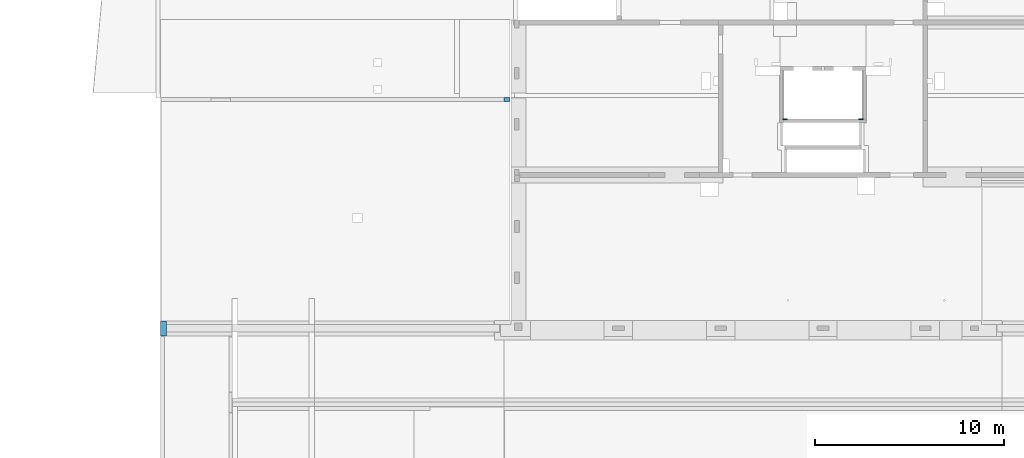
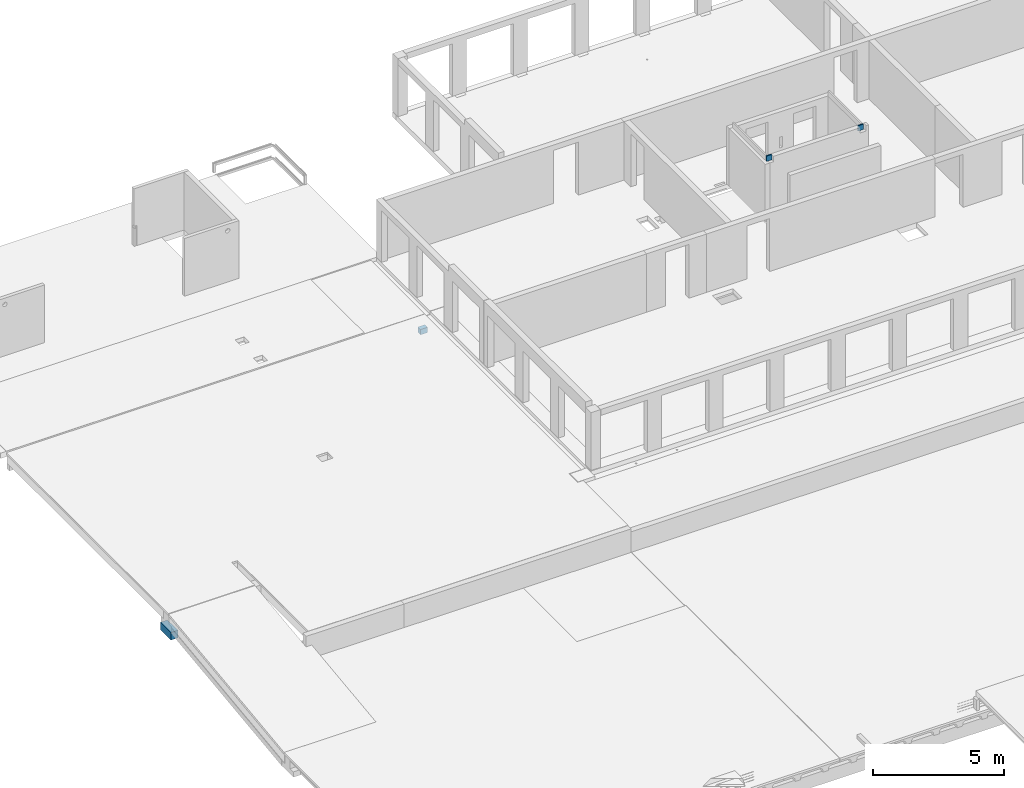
# One storey, part 24 of 36: 4 walls.
"""IFC2X3 building model written with IfcOpenShell, lengths in millimetres."""

from ifc_helpers import new_model, entity, si_unit, converted_unit, derived_unit, direction, frame, frame_2d, origin, origin_2d_with_axis, place, context, subcontext, project, spatial, rectangle, extrude, material, layer, layer_set, layer_usage, type_object, element, save


model = new_model("IFC2X3")

# Units and contexts
model_context = context("Model", 3, precision=0.01, world=origin(), true_north=direction((6.12303176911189e-17, 1.0)))
body_context = subcontext(model_context, "Body", "Model", "MODEL_VIEW")
ifc_project = project(units=[si_unit("LENGTHUNIT", "METRE", prefix="MILLI"), si_unit("AREAUNIT", "SQUARE_METRE"), si_unit("VOLUMEUNIT", "CUBIC_METRE"), converted_unit("PLANEANGLEUNIT", "DEGREE", entity("IfcRatioMeasure", 0.0174532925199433), si_unit("PLANEANGLEUNIT", "RADIAN"), dimensions=[0, 0, 0, 0, 0, 0, 0]), si_unit("MASSUNIT", "GRAM", prefix="KILO"), derived_unit("MASSDENSITYUNIT", [(si_unit("MASSUNIT", "GRAM", prefix="KILO"), 1), (si_unit("LENGTHUNIT", "METRE"), -3)]), si_unit("TIMEUNIT", "SECOND"), si_unit("FREQUENCYUNIT", "HERTZ"), si_unit("THERMODYNAMICTEMPERATUREUNIT", "DEGREE_CELSIUS"), derived_unit("THERMALTRANSMITTANCEUNIT", [(si_unit("MASSUNIT", "GRAM", prefix="KILO"), 1), (si_unit("THERMODYNAMICTEMPERATUREUNIT", "KELVIN"), -1), (si_unit("TIMEUNIT", "SECOND"), -3)]), derived_unit("VOLUMETRICFLOWRATEUNIT", [(si_unit("LENGTHUNIT", "METRE"), 3), (si_unit("TIMEUNIT", "SECOND"), -1)]), si_unit("ELECTRICCURRENTUNIT", "AMPERE"), si_unit("ELECTRICVOLTAGEUNIT", "VOLT"), si_unit("POWERUNIT", "WATT"), si_unit("FORCEUNIT", "NEWTON", prefix="KILO"), si_unit("ILLUMINANCEUNIT", "LUX"), si_unit("LUMINOUSFLUXUNIT", "LUMEN"), si_unit("LUMINOUSINTENSITYUNIT", "CANDELA"), derived_unit("USERDEFINED", [(si_unit("MASSUNIT", "GRAM", prefix="KILO"), -1), (si_unit("LENGTHUNIT", "METRE"), -2), (si_unit("TIMEUNIT", "SECOND"), 3), (si_unit("LUMINOUSFLUXUNIT", "LUMEN"), 1)]), derived_unit("LINEARVELOCITYUNIT", [(si_unit("LENGTHUNIT", "METRE"), 1), (si_unit("TIMEUNIT", "SECOND"), -1)]), si_unit("PRESSUREUNIT", "PASCAL"), derived_unit("USERDEFINED", [(si_unit("LENGTHUNIT", "METRE"), -2), (si_unit("MASSUNIT", "GRAM", prefix="KILO"), 1), (si_unit("TIMEUNIT", "SECOND"), -2)])], contexts=[model_context])

# Site, building, storey
site_placement = place(None, origin())
site = spatial("IfcSite", under=ifc_project, at=site_placement, Name="Default", CompositionType="ELEMENT")
building_placement = place(site_placement, origin())
building = spatial("IfcBuilding", under=site, at=building_placement, Name="niet gebruiken", CompositionType="ELEMENT")
storey_placement = place(building_placement, frame((0.0, 0.0, 12600.0)))
storey = spatial("IfcBuildingStorey", under=building, at=storey_placement, Name="04 vierde verdieping", CompositionType="ELEMENT", Elevation=12600.0)

# Walls
ifc_material_1 = material(Name="NLRS_f2_beton ihwg")
wall_type_1 = type_object("IfcWallType", Name="NLRS_21.21_SF_WPB_oplegnok ihwg beton_gen:200x250", PredefinedType="NOTDEFINED", material=ifc_material_1)
wall_1_placement = place(storey_placement, frame((26370.0, 40861.0, -895.0)))
element("IfcWall", 1, at=wall_1_placement, inside=storey, type_object=wall_type_1, material=ifc_material_1, Name="NLRS_21.21_SF_WPB_oplegnok ihwg beton_gen:200x250", ObjectType="NLRS_21.21_SF_WPB_oplegnok ihwg beton_gen:200x250", context=body_context, shape_type="SweptSolid", body=[
    extrude(rectangle(XDim=305.00000000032, YDim=199.999999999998, at=frame_2d((4.33431068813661e-12, -4.33431068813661e-12), x_axis=(1.0, 0.0))), frame((152.50000000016, 100.0, 0.0)), (0.0, 0.0, 1.0), 250.000000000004),
])
ifc_material_2 = material(Name="NLRS_f2_beton prefab")
wall_type_2 = type_object("IfcWallType", Name="NLRS_21.21_SF_WPB_oplegnok prefabbeton_gen:300x350", PredefinedType="NOTDEFINED", material=ifc_material_2)
wall_2_placement = place(storey_placement, frame((8225.0, 28481.0, -1260.0), z_axis=(0.0, 0.0, 1.0), x_axis=(0.0, 1.0, 0.0)))
element("IfcWall", 2, at=wall_2_placement, inside=storey, type_object=wall_type_2, material=ifc_material_2, Name="NLRS_21.21_SF_WPB_oplegnok prefabbeton_gen:300x350", ObjectType="NLRS_21.21_SF_WPB_oplegnok prefabbeton_gen:300x350", context=body_context, shape_type="SweptSolid", body=[
    extrude(rectangle(XDim=800.000000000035, YDim=300.0, at=origin_2d_with_axis()), frame((400.0, -150.0, 0.0)), (0.0, 0.0, 1.0), 350.000000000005),
])
ifc_layer = layer(ifc_material_2, 60.0)
ifc_layer_set = layer_set([ifc_layer], Name="Basic Wall:NLRS_22.21_WA_beton prefab d=60_gen")
ifc_layer_usage_1 = layer_usage(ifc_layer_set, "AXIS2", "NEGATIVE", 30.0)
wall_type_3 = type_object("IfcWallType", Name="Basic Wall:NLRS_22.21_WA_beton prefab d=60_gen", PredefinedType="STANDARD", material=ifc_layer_set)
wall_3_placement = place(storey_placement, frame((41065.02321398, 39916.0, 2630.0)))
element("IfcWallStandardCase", 3, at=wall_3_placement, inside=storey, type_object=wall_type_3, material=ifc_layer_usage_1, Name="Basic Wall:NLRS_22.21_WA_beton prefab d=60_gen", ObjectType="Basic Wall:NLRS_22.21_WA_beton prefab d=60_gen", context=body_context, shape_type="SweptSolid", body=[
    extrude(rectangle(XDim=234.976753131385, YDim=60.0000000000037, at=frame_2d((117.488376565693, -4.12292422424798e-12), x_axis=(-1.0, 0.0))), origin(), (0.0, 0.0, 1.0), 250.000000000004),
])
ifc_layer_usage_2 = layer_usage(ifc_layer_set, "AXIS2", "POSITIVE", -30.0)
wall_4_placement = place(storey_placement, frame((45334.9767860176, 39916.0, 2630.0), z_axis=(0.0, 0.0, 1.0), x_axis=(-1.0, 0.0, 0.0)))
element("IfcWallStandardCase", 4, at=wall_4_placement, inside=storey, type_object=wall_type_3, material=ifc_layer_usage_2, Name="Basic Wall:NLRS_22.21_WA_beton prefab d=60_gen", ObjectType="Basic Wall:NLRS_22.21_WA_beton prefab d=60_gen", context=body_context, shape_type="SweptSolid", body=[
    extrude(rectangle(XDim=234.976753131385, YDim=60.0000000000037, at=frame_2d((117.488376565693, 4.12114786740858e-12), x_axis=(-1.0, 0.0))), origin(), (0.0, 0.0, 1.0), 250.000000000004),
])

save(model, "model.ifc")
